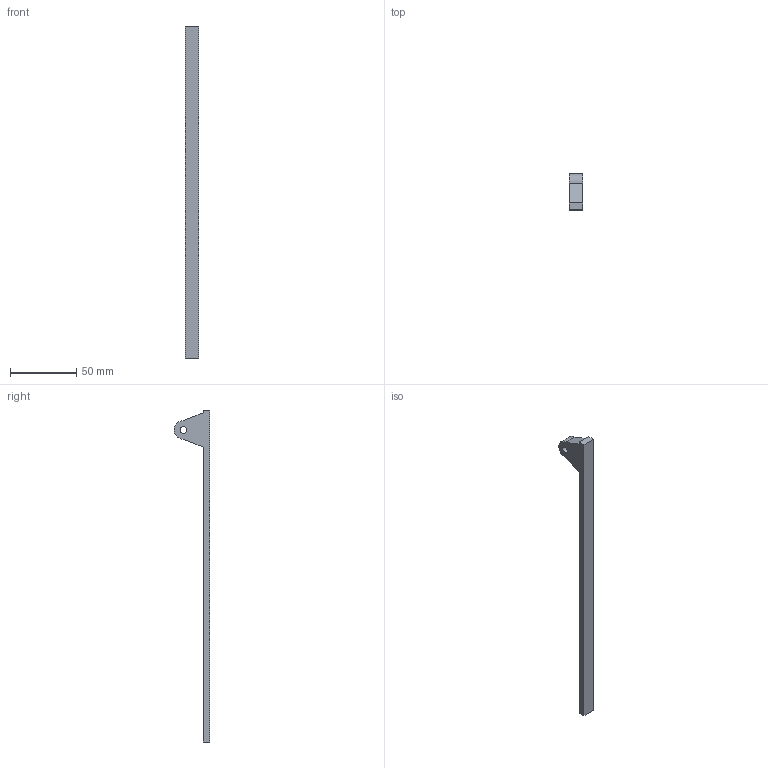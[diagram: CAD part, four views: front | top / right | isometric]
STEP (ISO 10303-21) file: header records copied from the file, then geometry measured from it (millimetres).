
FILE_DESCRIPTION (( 'STEP AP203' ), '1' );
FILE_NAME ('base.STEP', '2025-11-09T19:58:57', ( 'msi i7' ), ( '' ), 'SwSTEP 2.0', 'SolidWorks 2025', '' );
FILE_SCHEMA (( 'CONFIG_CONTROL_DESIGN' ));
Length unit declared in the file: millimetre
Products named in the file (1): base
Bounding box: 10 x 27 x 250 mm (x, y, z)
Volume: 16073.3 mm3; surface area: 8754.8 mm2
Topology: 1 solids, 1 shells, 12 faces, 30 edges, 20 vertices
Faces by surface type: plane 9, cylinder 3
Entity records: 441 total; most frequent: CARTESIAN_POINT 63, DIRECTION 62, ORIENTED_EDGE 60, EDGE_CURVE 30, VECTOR 24, LINE 24, VERTEX_POINT 20, AXIS2_PLACEMENT_3D 19
